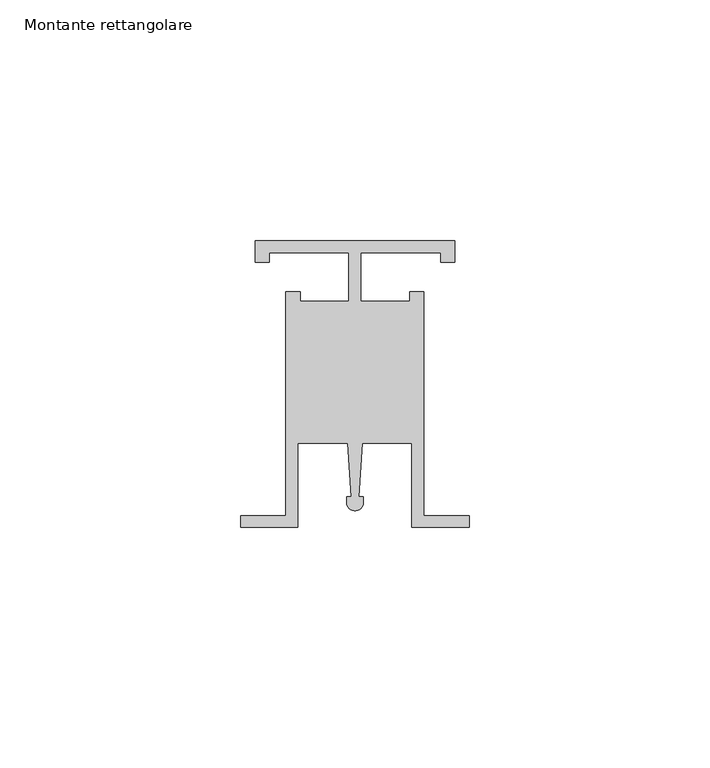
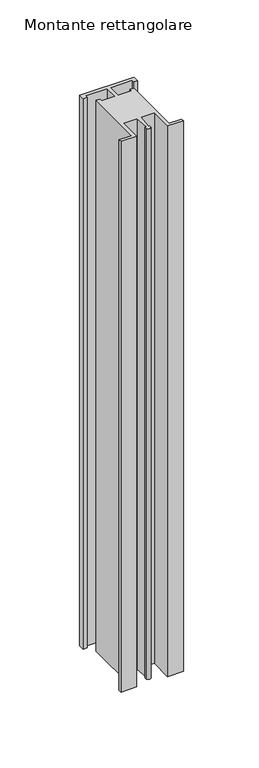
"""IFC4 building model written with IfcOpenShell, lengths in millimetres: member geometry, Montante rettangolare : Verde Profilo's Uprights."""

from ifc_helpers import new_model, si_unit, point, frame, frame_2d, origin, place, context, project, spatial, polyline, circle_curve, trimmed, segment, composite_curve, outline, extrude, source, transform, mapped, element, save


def montante_rettangolare_e932fd89(model_context):
    return source(origin(), model_context, "Body", "SweptSolid", [
        extrude(outline(composite_curve([segment(polyline([(-20.7595941, 0.0), (20.7595941, 0.0), (20.7595941, -4.4643434), (17.7832659, -4.4643434), (17.7832659, -2.4801246), (1.24037, -2.4801246), (1.24037, -12.5992217), (11.3587923, -12.5992217), (11.3587923, -10.6150029), (14.3351204, -10.6150029), (14.3351204, -57.1992491), (23.7595941, -57.1992491), (23.7595941, -59.5229914), (11.8549958, -59.5229914), (11.8549958, -42.1200913), (1.4717512, -42.1200913), (0.7440374, -53.2310496), (1.7376604, -53.2310496), (1.7376604, -54.4070013)]), True, "CONTINUOUS"), segment(trimmed(circle_curve(frame_2d((0.0, -54.4070013)), 1.7376604), [point((1.7376604, -54.4070013))], [point((-1.7376604, -54.4070013))], False, "CARTESIAN"), True, "CONTINUOUS"), segment(polyline([(-1.7376604, -54.4070013), (-1.7376604, -53.2310496), (-0.7440374, -53.2310496), (-1.4717512, -42.1200913), (-11.8549958, -42.1200913), (-11.8549958, -59.5229914), (-23.7595941, -59.5229914), (-23.7595941, -57.1992491), (-14.3351204, -57.1992491), (-14.3351204, -10.6150029), (-11.3587923, -10.6150029), (-11.3587923, -12.5992217), (-1.24037, -12.5992217), (-1.24037, -2.4801246), (-17.7832659, -2.4801246), (-17.7832659, -4.4643434), (-20.7595941, -4.4643434), (-20.7595941, 0.0)]), True, "CONTINUOUS")], self_intersect=False)), frame((0.0, 0.0, -442.8571429), z_axis=(0.0, 0.0, 1.0), x_axis=(1.0, 0.0, 0.0)), (0.0, 0.0, 1.0), 442.8571429),
    ])


if __name__ == "__main__":
    model = new_model("IFC4")
    model_context = context("Model", 3, world=origin())
    ifc_project = project(units=[si_unit("LENGTHUNIT", "METRE", prefix="MILLI")], contexts=[model_context])
    site = spatial("IfcSite", under=ifc_project)
    building = spatial("IfcBuilding", under=site)
    placement = place(None, origin())
    montante_rettangolare_shape = montante_rettangolare_e932fd89(model_context)
    element("IfcMember", 1, ObjectType="Montante rettangolare : Verde Profilo's Uprights", at=placement, inside=building, context=model_context, shape_type="MappedRepresentation", body=[
        mapped(montante_rettangolare_shape, transform((0.0, 0.0, 0.0), x_axis=(1.0, 0.0, 0.0), y_axis=(0.0, 1.0, 0.0), z_axis=(0.0, 0.0, 1.0))),
    ])
    save(model, "model.ifc")
